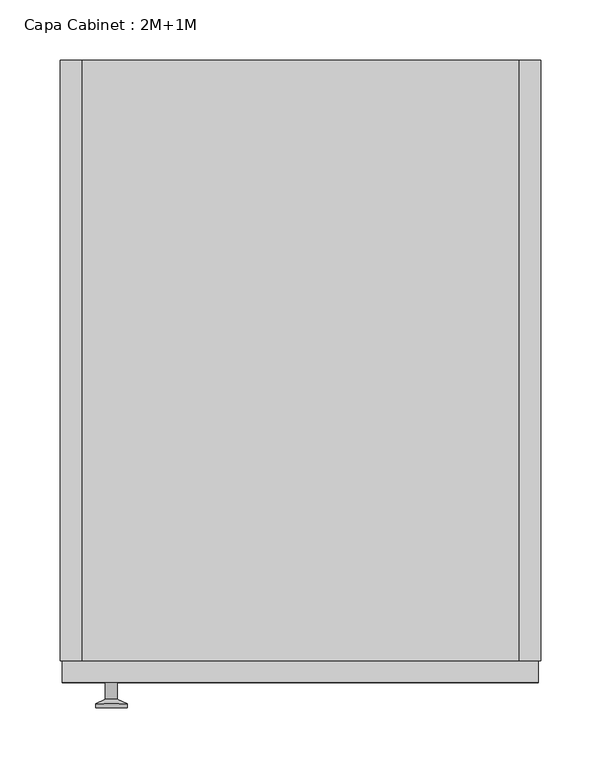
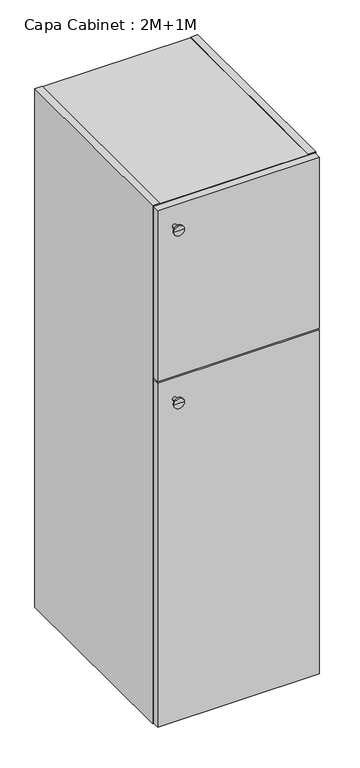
"""IFC4 building model written with IfcOpenShell, lengths in millimetres: furniture geometry, Capa Cabinet : 2M+1M."""

from ifc_helpers import new_model, si_unit, frame, origin, place, context, project, spatial, polyline, circle_curve, outline, extrude, faceted_brep, source, transform, mapped, element, save
from ifc_brep_helpers import plane_surface, cylinder_surface, revolved_surface, advanced_brep


def capa_cabinet_2m_1m_9c8d5e08(model_context):
    return source(origin(), model_context, "Body", "SolidModel", [
        extrude(outline(polyline([(182.0, 0.0), (-182.0, 0.0), (-182.0, 490.0), (182.0, 490.0), (182.0, 0.0)])), frame((0.0, 0.0, 889.0), z_axis=(0.0, 0.0, 1.0), x_axis=(1.0, 0.0, 0.0)), (0.0, 0.0, 1.0), 14.0),
        extrude(outline(polyline([(182.0, 0.0), (-182.0, 0.0), (-182.0, 490.0), (182.0, 490.0), (182.0, 0.0)])), frame((0.0, 0.0, 441.0), z_axis=(0.0, 0.0, 1.0), x_axis=(1.0, 0.0, 0.0)), (0.0, 0.0, 1.0), 14.0),
        faceted_brep([(-182.0, 500.0, 1344.0), (-182.0, 500.0, 1343.0), (182.0, 500.0, 1343.0), (182.0, 500.0, 1344.0), (200.0, 500.0, 1344.0), (200.0, 500.0, 0.0), (182.0, 500.0, 0.0), (182.0, 500.0, 1.0), (-182.0, 500.0, 1.0), (-182.0, 500.0, 0.0), (-200.0, 500.0, 0.0), (-200.0, 500.0, 1344.0), (182.0, 490.0, 19.0), (182.0, 490.0, 1325.0), (-182.0, 490.0, 1325.0), (-182.0, 490.0, 19.0), (-182.0, 0.0, 1344.0), (-200.0, 0.0, 1344.0), (-200.0, 0.0, 0.0), (-182.0, 0.0, 0.0), (-182.0, 0.0, 1.0), (182.0, 0.0, 1.0), (182.0, 0.0, 0.0), (200.0, 0.0, 0.0), (200.0, 0.0, 1344.0), (182.0, 0.0, 1344.0), (182.0, 0.0, 1343.0), (-182.0, 0.0, 1343.0), (182.0, 0.0, 1325.0), (182.0, 0.0, 19.0), (-182.0, 0.0, 19.0), (-182.0, 0.0, 1325.0)], [[[0, 1, 2, 3, 4, 5, 6, 7, 8, 9, 10, 11]], [[12, 13, 14, 15]], [[16, 17, 18, 19, 20, 21, 22, 23, 24, 25, 26, 27], [28, 29, 30, 31]], [[17, 16, 0, 11]], [[18, 17, 11, 10]], [[23, 22, 6, 5]], [[24, 23, 5, 4]], [[19, 18, 10, 9]], [[20, 19, 9, 8]], [[21, 20, 8, 7]], [[22, 21, 7, 6]], [[25, 24, 4, 3]], [[26, 25, 3, 2]], [[27, 26, 2, 1]], [[16, 27, 1, 0]], [[29, 28, 13, 12]], [[30, 29, 12, 15]], [[31, 30, 15, 14]], [[28, 31, 14, 13]]]),
        extrude(outline(polyline([(198.0, -18.0), (-198.0, -18.0), (-198.0, 0.0), (198.0, 0.0), (198.0, -18.0)])), frame((0.0, 0.0, 898.0), z_axis=(0.0, 0.0, 1.0), x_axis=(1.0, 0.0, 0.0)), (0.0, 0.0, 1.0), 444.0),
        advanced_brep(
        [(-157.2922597, -18.0, 1288.0), (-152.2922597, -18.0, 1288.0), (-162.2922597, -18.0, 1288.0), (-170.2922597, -38.997134, 1288.0), (-144.2922597, -38.997134, 1288.0), (-157.2922597, -38.997134, 1288.0), (-170.2922597, -35.5419417, 1288.0), (-144.2922597, -35.5419417, 1288.0), (-162.2922597, -31.8114804, 1288.0), (-152.2922597, -31.8114804, 1288.0)],
        [
            (0, 1),
            (1, 2, circle_curve(frame((-157.2922597, -18.0, 1288.0), z_axis=(0.0, 1.0, 0.0), x_axis=(1.0, 0.0, 0.0)), 5.0)),
            (2, 0),
            (2, 1, circle_curve(frame((-157.2922597, -18.0, 1288.0), z_axis=(0.0, 1.0, 0.0), x_axis=(1.0, 0.0, 0.0)), 5.0)),
            (3, 4, circle_curve(frame((-157.2922597, -38.997134, 1288.0), z_axis=(0.0, -1.0, 0.0), x_axis=(1.0, 0.0, 0.0)), 13.0)),
            (4, 5),
            (5, 3),
            (4, 3, circle_curve(frame((-157.2922597, -38.997134, 1288.0), z_axis=(0.0, -1.0, 0.0), x_axis=(1.0, 0.0, 0.0)), 13.0)),
            (6, 7, circle_curve(frame((-157.2922597, -35.5419417, 1288.0), z_axis=(0.0, -1.0, 0.0), x_axis=(1.0, 0.0, 0.0)), 13.0)),
            (7, 4),
            (3, 6),
            (7, 6, circle_curve(frame((-157.2922597, -35.5419417, 1288.0), z_axis=(0.0, -1.0, 0.0), x_axis=(1.0, 0.0, 0.0)), 13.0)),
            (8, 9, circle_curve(frame((-157.2922597, -31.8114804, 1288.0), z_axis=(0.0, -1.0, 0.0), x_axis=(1.0, 0.0, 0.0)), 5.0)),
            (9, 7),
            (6, 8),
            (9, 8, circle_curve(frame((-157.2922597, -31.8114804, 1288.0), z_axis=(0.0, -1.0, 0.0), x_axis=(1.0, 0.0, 0.0)), 5.0)),
            (1, 9),
            (8, 2),
        ],
        [
            plane_surface(frame((-157.2922597, -18.0, 1288.0), z_axis=(0.0, 1.0, 0.0), x_axis=(1.0, 0.0, 0.0))),
            plane_surface(frame((-157.2922597, -38.997134, 1288.0), z_axis=(0.0, -1.0, 0.0), x_axis=(1.0, 0.0, 0.0))),
            cylinder_surface(frame((-157.2922597, -38.997134, 1288.0), z_axis=(0.0, 1.0, 0.0), x_axis=(1.0, 0.0, 0.0)), 13.0),
            revolved_surface(polyline([(-144.2922597, -35.5419417, 1288.0), (-152.2922597, -31.8114804, 1288.0)]), (-157.2922597, -38.997134, 1288.0), (0.0, 1.0, 0.0)),
            cylinder_surface(frame((-157.2922597, -38.997134, 1288.0), z_axis=(0.0, 1.0, 0.0), x_axis=(1.0, 0.0, 0.0)), 5.0),
        ],
        [
            (0, [[1, 2, 3]]),
            (0, [[-3, 4, -1]]),
            (1, [[5, 6, 7]]),
            (1, [[8, -7, -6]]),
            (2, [[9, 10, -5, 11]]),
            (2, [[12, -11, -8, -10]]),
            (3, [[13, 14, -9, 15]]),
            (3, [[16, -15, -12, -14]]),
            (4, [[-2, 17, -13, 18]]),
            (4, [[-4, -18, -16, -17]]),
        ],
    ),
        extrude(outline(polyline([(198.0, -18.0), (-198.0, -18.0), (-198.0, 0.0), (198.0, 0.0), (198.0, -18.0)])), frame((0.0, 0.0, 2.0), z_axis=(0.0, 0.0, 1.0), x_axis=(1.0, 0.0, 0.0)), (0.0, 0.0, 1.0), 892.0),
        advanced_brep(
        [(-157.2922597, -18.0, 840.0), (-152.2922597, -18.0, 840.0), (-162.2922597, -18.0, 840.0), (-170.2922597, -38.997134, 840.0), (-144.2922597, -38.997134, 840.0), (-157.2922597, -38.997134, 840.0), (-170.2922597, -35.5419417, 840.0), (-144.2922597, -35.5419417, 840.0), (-162.2922597, -31.8114804, 840.0), (-152.2922597, -31.8114804, 840.0)],
        [
            (0, 1),
            (1, 2, circle_curve(frame((-157.2922597, -18.0, 840.0), z_axis=(0.0, 1.0, 0.0), x_axis=(1.0, 0.0, 0.0)), 5.0)),
            (2, 0),
            (2, 1, circle_curve(frame((-157.2922597, -18.0, 840.0), z_axis=(0.0, 1.0, 0.0), x_axis=(1.0, 0.0, 0.0)), 5.0)),
            (3, 4, circle_curve(frame((-157.2922597, -38.997134, 840.0), z_axis=(0.0, -1.0, 0.0), x_axis=(1.0, 0.0, 0.0)), 13.0)),
            (4, 5),
            (5, 3),
            (4, 3, circle_curve(frame((-157.2922597, -38.997134, 840.0), z_axis=(0.0, -1.0, 0.0), x_axis=(1.0, 0.0, 0.0)), 13.0)),
            (6, 7, circle_curve(frame((-157.2922597, -35.5419417, 840.0), z_axis=(0.0, -1.0, 0.0), x_axis=(1.0, 0.0, 0.0)), 13.0)),
            (7, 4),
            (3, 6),
            (7, 6, circle_curve(frame((-157.2922597, -35.5419417, 840.0), z_axis=(0.0, -1.0, 0.0), x_axis=(1.0, 0.0, 0.0)), 13.0)),
            (8, 9, circle_curve(frame((-157.2922597, -31.8114804, 840.0), z_axis=(0.0, -1.0, 0.0), x_axis=(1.0, 0.0, 0.0)), 5.0)),
            (9, 7),
            (6, 8),
            (9, 8, circle_curve(frame((-157.2922597, -31.8114804, 840.0), z_axis=(0.0, -1.0, 0.0), x_axis=(1.0, 0.0, 0.0)), 5.0)),
            (1, 9),
            (8, 2),
        ],
        [
            plane_surface(frame((-157.2922597, -18.0, 840.0), z_axis=(0.0, 1.0, 0.0), x_axis=(1.0, 0.0, 0.0))),
            plane_surface(frame((-157.2922597, -38.997134, 840.0), z_axis=(0.0, -1.0, 0.0), x_axis=(1.0, 0.0, 0.0))),
            cylinder_surface(frame((-157.2922597, -38.997134, 840.0), z_axis=(0.0, 1.0, 0.0), x_axis=(1.0, 0.0, 0.0)), 13.0),
            revolved_surface(polyline([(-144.2922597, -35.5419417, 840.0), (-152.2922597, -31.8114804, 840.0)]), (-157.2922597, -38.997134, 840.0), (0.0, 1.0, 0.0)),
            cylinder_surface(frame((-157.2922597, -38.997134, 840.0), z_axis=(0.0, 1.0, 0.0), x_axis=(1.0, 0.0, 0.0)), 5.0),
        ],
        [
            (0, [[1, 2, 3]]),
            (0, [[-3, 4, -1]]),
            (1, [[5, 6, 7]]),
            (1, [[8, -7, -6]]),
            (2, [[9, 10, -5, 11]]),
            (2, [[12, -11, -8, -10]]),
            (3, [[13, 14, -9, 15]]),
            (3, [[16, -15, -12, -14]]),
            (4, [[-2, 17, -13, 18]]),
            (4, [[-4, -18, -16, -17]]),
        ],
    ),
    ])


if __name__ == "__main__":
    model = new_model("IFC4")
    model_context = context("Model", 3, world=origin())
    ifc_project = project(units=[si_unit("LENGTHUNIT", "METRE", prefix="MILLI")], contexts=[model_context])
    site = spatial("IfcSite", under=ifc_project)
    building = spatial("IfcBuilding", under=site)
    placement = place(None, origin())
    capa_cabinet_2m_1m_shape = capa_cabinet_2m_1m_9c8d5e08(model_context)
    element("IfcFurniture", 1, ObjectType="Capa Cabinet : 2M+1M", at=placement, inside=building, context=model_context, shape_type="MappedRepresentation", body=[
        mapped(capa_cabinet_2m_1m_shape, transform((0.0, 0.0, 0.0), x_axis=(1.0, 0.0, 0.0), y_axis=(0.0, 1.0, 0.0), z_axis=(0.0, 0.0, 1.0))),
    ])
    save(model, "model.ifc")
